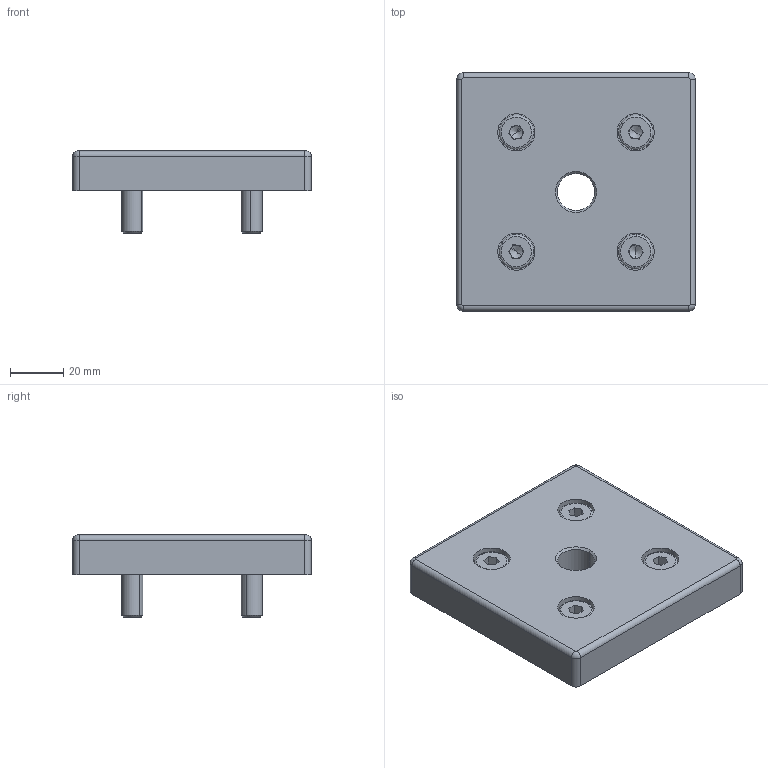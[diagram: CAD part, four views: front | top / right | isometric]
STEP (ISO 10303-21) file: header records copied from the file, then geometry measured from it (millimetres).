
FILE_DESCRIPTION (( 'STEP AP214' ), '1' );
FILE_NAME ('1.5014 Kierrelevy 90x90 M16.STEP', '2025-09-16T07:22:44', ( '' ), ( '' ), 'SwSTEP 2.0', 'SolidWorks 2025', '' );
FILE_SCHEMA (( 'AUTOMOTIVE_DESIGN' ));
Length unit declared in the file: millimetre
Products named in the file (1): 1.5014 Kierrelevy 90x90 M16
Bounding box: 90 x 90 x 31 mm (x, y, z)
Volume: 120472.5 mm3; surface area: 27661.5 mm2
Topology: 5 solids, 5 shells, 150 faces, 330 edges, 194 vertices
Faces by surface type: plane 70, cylinder 42, torus 20, cone 18
Entity records: 5773 total; most frequent: DIRECTION 778, CARTESIAN_POINT 667, ORIENTED_EDGE 644, EDGE_CURVE 322, AXIS2_PLACEMENT_3D 305, VERTEX_POINT 194, EDGE_LOOP 172, VECTOR 168
